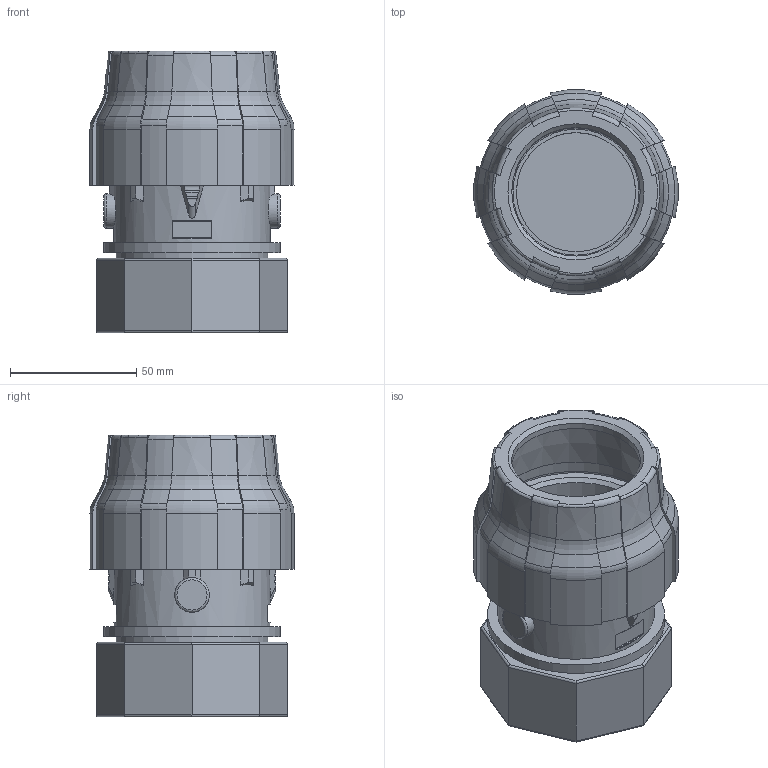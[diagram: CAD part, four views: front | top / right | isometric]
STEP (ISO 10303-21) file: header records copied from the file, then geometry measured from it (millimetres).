
FILE_DESCRIPTION( ( 'STEP AP214' ), '1' );
FILE_NAME( ' ', ' ', ( ' ' ), ( ' ' ), 'PSStep 11.0', 'VISI 17.0', ' ' );
FILE_SCHEMA( ( 'AUTOMOTIVE_DESIGN { 1 0 10303 214 1 1 1 1 }' ) );
Length unit declared in the file: millimetre
Products named in the file (7): 1; 2; 3; 4; 5; 6; 7
Bounding box: 80.81 x 80.81 x 111.69 mm (x, y, z)
Volume: 198750 mm3; surface area: 105804.7 mm2
Topology: 7 solids, 7 shells, 279 faces, 729 edges, 473 vertices
Faces by surface type: plane 89, cylinder 79, torus 58, cone 45, bspline 8
Full cylindrical faces by diameter (mm): 13.678 x2, 47.2 x1, 50.9 x2, 58.8 x1, 60.083 x1, 62 x1, 68 x1, 70 x2, 74 x2
Entity records: 13424 total; most frequent: CARTESIAN_POINT 4586, ORIENTED_EDGE 1370, DIRECTION 1326, EDGE_CURVE 685, AXIS2_PLACEMENT_3D 565, VERTEX_POINT 461, EDGE_LOOP 328, FACE_OUTER_BOUND 298
